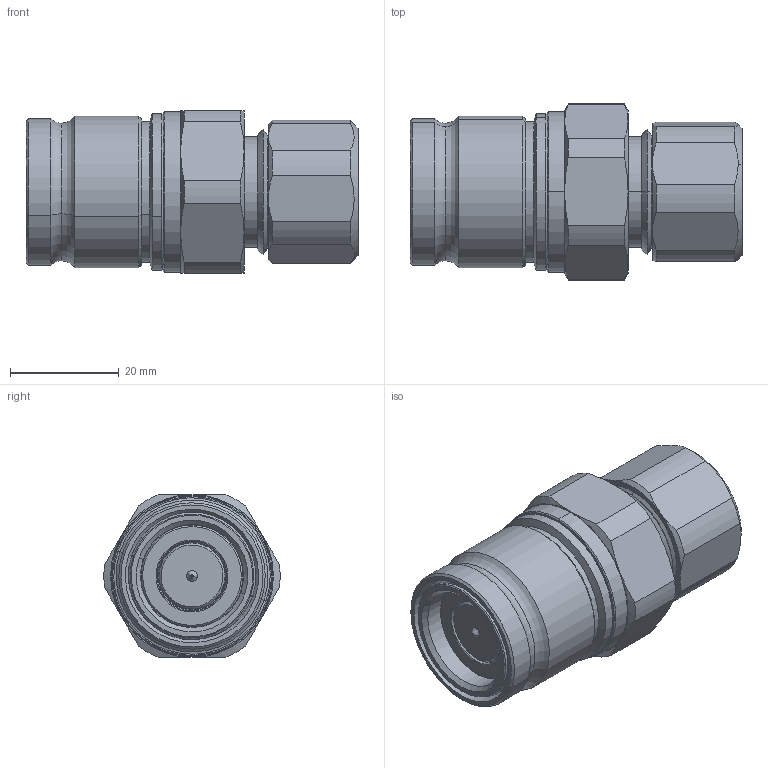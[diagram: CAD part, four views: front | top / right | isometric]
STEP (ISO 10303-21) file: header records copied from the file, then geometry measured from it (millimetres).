
FILE_DESCRIPTION (( 'STEP AP203' ), '1' );
FILE_NAME ('QD4-MT13X19.STEP', '2025-07-31T05:33:30', ( 'aksong' ), ( '' ), 'SwSTEP 2.0', 'SolidWorks 2012', '' );
FILE_SCHEMA (( 'CONFIG_CONTROL_DESIGN' ));
Length unit declared in the file: millimetre
Products named in the file (4): Compression 13X19 cap nut; QD4-MT13X19; 13x19 哪橇饭寂 female 畴榴; female body
Assembly tree (3 placements, depth 2):
  QD4-MT13X19
    13x19 哪橇饭寂 female 畴榴
    female body
    Compression 13X19 cap nut
Bounding box: 61.2 x 32.47 x 30 mm (x, y, z)
Volume: 29999.6 mm3; surface area: 13904.7 mm2
Topology: 3 solids, 3 shells, 247 faces, 512 edges, 290 vertices
Faces by surface type: cone 104, cylinder 90, plane 37, torus 16
Entity records: 7072 total; most frequent: CARTESIAN_POINT 1323, DIRECTION 1254, ORIENTED_EDGE 1024, AXIS2_PLACEMENT_3D 533, EDGE_CURVE 512, VERTEX_POINT 290, CIRCLE 280, EDGE_LOOP 268
